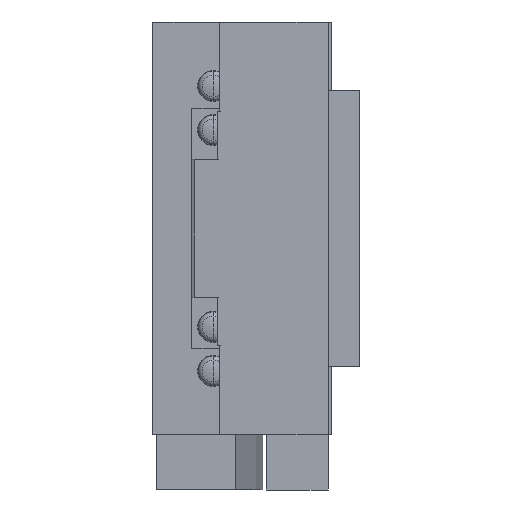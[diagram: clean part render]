
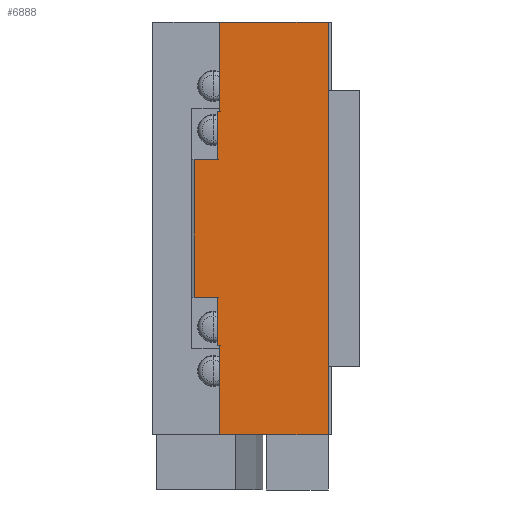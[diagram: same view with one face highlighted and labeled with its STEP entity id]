
A CAD part, left-side view. The second image highlights one B-rep face of the part: STEP entity #6888.
In plain terms, the highlighted planar face has unit normal (-1, 0, 0).
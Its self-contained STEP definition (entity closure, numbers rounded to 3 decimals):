
#169 = AXIS2_PLACEMENT_3D ( 'NONE', #4518, #4502, #4501 ) ;
#195 = LINE ( 'NONE', #1426, #4824 ) ;
#196 = DIRECTION ( 'NONE',  ( 0., -1., 0. ) ) ;
#199 = CARTESIAN_POINT ( 'NONE',  ( -38., 10., 30. ) ) ;
#200 = LINE ( 'NONE', #199, #4825 ) ;
#201 = DIRECTION ( 'NONE',  ( 0., 0., -1. ) ) ;
#202 = CARTESIAN_POINT ( 'NONE',  ( -38., -9.5, 30. ) ) ;
#203 = LINE ( 'NONE', #202, #4826 ) ;
#204 = DIRECTION ( 'NONE',  ( 0., -1., 0. ) ) ;
#210 = DIRECTION ( 'NONE',  ( 0., 0., -1. ) ) ;
#211 = CARTESIAN_POINT ( 'NONE',  ( -38., 6.325, -17. ) ) ;
#212 = LINE ( 'NONE', #230, #4828 ) ;
#213 = LINE ( 'NONE', #211, #4830 ) ;
#220 = DIRECTION ( 'NONE',  ( 0., -1., 0. ) ) ;
#221 = CARTESIAN_POINT ( 'NONE',  ( -38., 10., 10. ) ) ;
#222 = LINE ( 'NONE', #221, #4833 ) ;
#230 = CARTESIAN_POINT ( 'NONE',  ( -38., 10., -30. ) ) ;
#240 = DIRECTION ( 'NONE',  ( 0., 0., 1. ) ) ;
#244 = LINE ( 'NONE', #249, #4845 ) ;
#249 = CARTESIAN_POINT ( 'NONE',  ( -38., 6.643, 10. ) ) ;
#698 = EDGE_LOOP ( 'NONE', ( #1050, #1052, #1057, #1060, #1063, #1066, #1068, #1070, #1072, #1074, #1076, #1078 ) ) ;
#1050 = ORIENTED_EDGE ( 'NONE', *, *, #6783, .T. ) ;
#1052 = ORIENTED_EDGE ( 'NONE', *, *, #6785, .T. ) ;
#1057 = ORIENTED_EDGE ( 'NONE', *, *, #6786, .F. ) ;
#1060 = ORIENTED_EDGE ( 'NONE', *, *, #6787, .F. ) ;
#1063 = ORIENTED_EDGE ( 'NONE', *, *, #6788, .F. ) ;
#1066 = ORIENTED_EDGE ( 'NONE', *, *, #6789, .F. ) ;
#1068 = ORIENTED_EDGE ( 'NONE', *, *, #6773, .F. ) ;
#1070 = ORIENTED_EDGE ( 'NONE', *, *, #6780, .F. ) ;
#1072 = ORIENTED_EDGE ( 'NONE', *, *, #6790, .T. ) ;
#1074 = ORIENTED_EDGE ( 'NONE', *, *, #6791, .T. ) ;
#1076 = ORIENTED_EDGE ( 'NONE', *, *, #6792, .T. ) ;
#1078 = ORIENTED_EDGE ( 'NONE', *, *, #6793, .T. ) ;
#1426 = CARTESIAN_POINT ( 'NONE',  ( -38., 6.325, 17. ) ) ;
#1660 = DIRECTION ( 'NONE',  ( 0., -1., 0. ) ) ;
#1661 = CARTESIAN_POINT ( 'NONE',  ( -38., 6.643, -17. ) ) ;
#1662 = LINE ( 'NONE', #1661, #4819 ) ;
#1663 = DIRECTION ( 'NONE',  ( 0., 0., -1. ) ) ;
#1664 = CARTESIAN_POINT ( 'NONE',  ( -38., 6.643, -10. ) ) ;
#1665 = LINE ( 'NONE', #1664, #4820 ) ;
#1666 = DIRECTION ( 'NONE',  ( 0., -1., 0. ) ) ;
#1667 = CARTESIAN_POINT ( 'NONE',  ( -38., 10., -10. ) ) ;
#1678 = CARTESIAN_POINT ( 'NONE',  ( -38., 6.643, 17. ) ) ;
#2177 = CARTESIAN_POINT ( 'NONE',  ( -38., 10., 30. ) ) ;
#2614 = LINE ( 'NONE', #1667, #4821 ) ;
#3487 = VERTEX_POINT ( 'NONE', #3810 ) ;
#3528 = VERTEX_POINT ( 'NONE', #3790 ) ;
#3533 = VERTEX_POINT ( 'NONE', #3780 ) ;
#3536 = VERTEX_POINT ( 'NONE', #3778 ) ;
#3548 = VERTEX_POINT ( 'NONE', #3777 ) ;
#3552 = VERTEX_POINT ( 'NONE', #3767 ) ;
#3557 = VERTEX_POINT ( 'NONE', #3766 ) ;
#3558 = VERTEX_POINT ( 'NONE', #3765 ) ;
#3561 = VERTEX_POINT ( 'NONE', #3763 ) ;
#3564 = VERTEX_POINT ( 'NONE', #3761 ) ;
#3569 = VERTEX_POINT ( 'NONE', #3758 ) ;
#3570 = VERTEX_POINT ( 'NONE', #3757 ) ;
#3684 = DIRECTION ( 'NONE',  ( 0., -1., 0. ) ) ;
#3757 = CARTESIAN_POINT ( 'NONE',  ( -38., 6.643, -17. ) ) ;
#3758 = CARTESIAN_POINT ( 'NONE',  ( -38., 6.643, -10. ) ) ;
#3761 = CARTESIAN_POINT ( 'NONE',  ( -38., 10., -10. ) ) ;
#3763 = CARTESIAN_POINT ( 'NONE',  ( -38., -9.5, -30. ) ) ;
#3765 = CARTESIAN_POINT ( 'NONE',  ( -38., -9.5, 30. ) ) ;
#3766 = CARTESIAN_POINT ( 'NONE',  ( -38., 6.325, 30. ) ) ;
#3767 = CARTESIAN_POINT ( 'NONE',  ( -38., 10., 10. ) ) ;
#3777 = CARTESIAN_POINT ( 'NONE',  ( -38., 6.325, -17. ) ) ;
#3778 = CARTESIAN_POINT ( 'NONE',  ( -38., 6.643, 17. ) ) ;
#3780 = CARTESIAN_POINT ( 'NONE',  ( -38., 6.325, 17. ) ) ;
#3790 = CARTESIAN_POINT ( 'NONE',  ( -38., 6.325, -30. ) ) ;
#3810 = CARTESIAN_POINT ( 'NONE',  ( -38., 6.643, 10. ) ) ;
#4501 = DIRECTION ( 'NONE',  ( 0., 0., -1. ) ) ;
#4502 = DIRECTION ( 'NONE',  ( 1., 0., 0. ) ) ;
#4504 = PLANE ( 'NONE',  #169 ) ;
#4506 = FACE_OUTER_BOUND ( 'NONE', #698, .T. ) ;
#4518 = CARTESIAN_POINT ( 'NONE',  ( -38., 10., 30. ) ) ;
#4819 = VECTOR ( 'NONE', #1660, 1000. ) ;
#4820 = VECTOR ( 'NONE', #1663, 1000. ) ;
#4821 = VECTOR ( 'NONE', #1666, 1000. ) ;
#4822 = VECTOR ( 'NONE', #6172, 1000. ) ;
#4823 = VECTOR ( 'NONE', #3684, 1000. ) ;
#4824 = VECTOR ( 'NONE', #6204, 1000. ) ;
#4825 = VECTOR ( 'NONE', #196, 1000. ) ;
#4826 = VECTOR ( 'NONE', #201, 1000. ) ;
#4828 = VECTOR ( 'NONE', #204, 1000. ) ;
#4830 = VECTOR ( 'NONE', #210, 1000. ) ;
#4833 = VECTOR ( 'NONE', #220, 1000. ) ;
#4845 = VECTOR ( 'NONE', #240, 1000. ) ;
#6172 = DIRECTION ( 'NONE',  ( 0., 0., -1. ) ) ;
#6173 = LINE ( 'NONE', #2177, #4822 ) ;
#6200 = LINE ( 'NONE', #1678, #4823 ) ;
#6204 = DIRECTION ( 'NONE',  ( 0., 0., 1. ) ) ;
#6773 = EDGE_CURVE ( 'NONE', #3487, #3536, #244, .T. ) ;
#6780 = EDGE_CURVE ( 'NONE', #3552, #3487, #222, .T. ) ;
#6783 = EDGE_CURVE ( 'NONE', #3548, #3528, #213, .T. ) ;
#6785 = EDGE_CURVE ( 'NONE', #3528, #3561, #212, .T. ) ;
#6786 = EDGE_CURVE ( 'NONE', #3558, #3561, #203, .T. ) ;
#6787 = EDGE_CURVE ( 'NONE', #3557, #3558, #200, .T. ) ;
#6788 = EDGE_CURVE ( 'NONE', #3533, #3557, #195, .T. ) ;
#6789 = EDGE_CURVE ( 'NONE', #3536, #3533, #6200, .T. ) ;
#6790 = EDGE_CURVE ( 'NONE', #3552, #3564, #6173, .T. ) ;
#6791 = EDGE_CURVE ( 'NONE', #3564, #3569, #2614, .T. ) ;
#6792 = EDGE_CURVE ( 'NONE', #3569, #3570, #1665, .T. ) ;
#6793 = EDGE_CURVE ( 'NONE', #3570, #3548, #1662, .T. ) ;
#6888 = ADVANCED_FACE ( 'NONE', ( #4506 ), #4504, .F. ) ;
